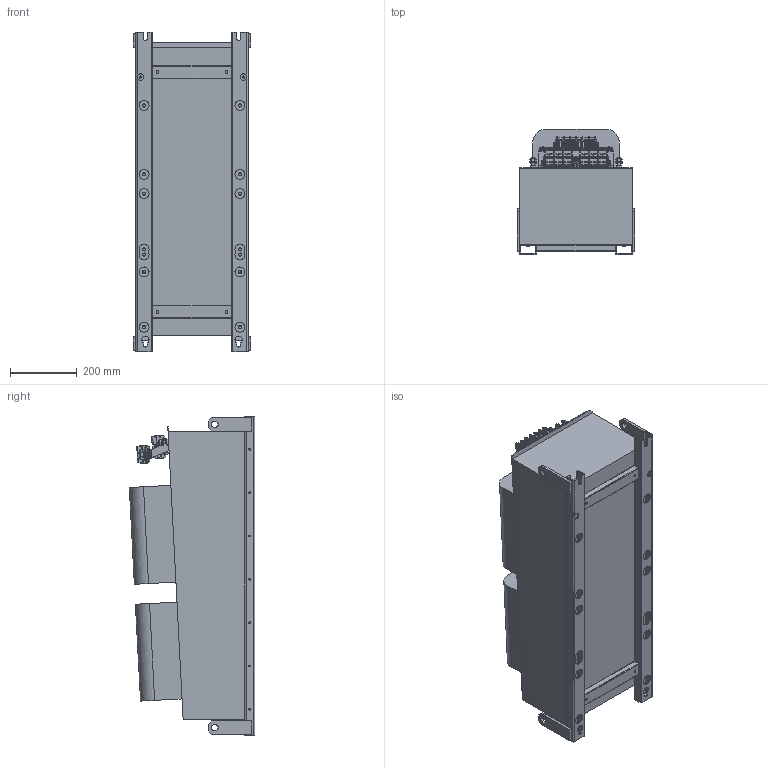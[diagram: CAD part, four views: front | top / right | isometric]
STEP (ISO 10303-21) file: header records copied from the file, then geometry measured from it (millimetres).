
FILE_DESCRIPTION((''),'2;1');
FILE_NAME('C:\SapWorkDir\Inventor\P01\G\EcosineEVO-G-E0XXJXX.stp','2016-09-30T10:07:13',('erika.jenzer'),(''),'Autodesk Inventor 2013','Autodesk Inventor 2013','');
FILE_SCHEMA(('AUTOMOTIVE_DESIGN { 1 0 10303 214 1 1 1 1 }'));
Length unit declared in the file: millimetre
Products named in the file (25): 154811_3D MODEL GLORIA FRAME G; 154814_BASE FRAME G WITH INSERTS; 154812_BASE FRAME G; 112665_INSERT BOLT FH M8X25; 112627_INSERT BOLT FH M5X15; 154816_HOUSING G WITH INSERTS; 112722_INSERT NUT M10; 154835_TERMINAL SUPPORT G WITH INSERTS; 154833_TERMINAL SUPPORT G; 112624_INSERT BOLT FH M5X12; 154822_TERMINAL MODULE G; 159668_DIN RAIL TH35-7.5 G; 154821_DIN RAIL TH35-7.5 G; 153988_DKB10; 156473_END COVER DKB10E; 153995_DKB 150; 156478_END COVER DKB150E-A; 160161_SS9B; 159346_TDJ MODULE G; 159345_DIN RAIL TH35-7.5 G-J; 153992_DKB 60; 156474_END COVER DKB60E-A; 122821_EARTH-SCREW M10X35; DIN EN 1661 M5; 163275_GLORIA G STP DUMMY
Assembly tree (60 placements, depth 4):
  154811_3D MODEL GLORIA FRAME G
    154814_BASE FRAME G WITH INSERTS
      154812_BASE FRAME G
      112665_INSERT BOLT FH M8X25  x14
      112627_INSERT BOLT FH M5X15  x2
    154816_HOUSING G WITH INSERTS
      112722_INSERT NUT M10  x2
    154835_TERMINAL SUPPORT G WITH INSERTS
      154833_TERMINAL SUPPORT G
      112624_INSERT BOLT FH M5X12  x2
    154822_TERMINAL MODULE G
      159668_DIN RAIL TH35-7.5 G
        154821_DIN RAIL TH35-7.5 G
        112624_INSERT BOLT FH M5X12  x3
      153988_DKB10  x2
      156473_END COVER DKB10E
      153995_DKB 150  x6
      156478_END COVER DKB150E-A  x2
      160161_SS9B  x2
    159346_TDJ MODULE G
      159345_DIN RAIL TH35-7.5 G-J
      153992_DKB 60  x6
      156474_END COVER DKB60E-A
      160161_SS9B  x2
    122821_EARTH-SCREW M10X35  x2
    DIN EN 1661 M5  x2
    163275_GLORIA G STP DUMMY
Bounding box: 353 x 376.51 x 960 mm (x, y, z)
Volume: 80888355.9 mm3; surface area: 2332158.2 mm2
Topology: 82 solids, 82 shells, 5247 faces, 14455 edges, 9369 vertices
Faces by surface type: plane 3668, cylinder 1174, cone 171, bspline 108, torus 54, revolution 40, sphere 32
Full cylindrical faces by diameter (mm): 1.5 x16, 2.9 x4, 3.2 x8, 3.7 x4, 4 x20, 4.134 x2, 4.2 x25, 5 x18, 5.4 x14, 5.5 x5, 6 x4, 6.206 x7, 6.5 x11, 7.193 x12, 7.2 x12, 7.3 x6, 7.9 x12, 8 x38, 8.376 x2, 9 x2, 9.188 x2, 9.275 x14, 9.8 x14, 10 x16, 10.5 x2, 14.158 x2, 15.4 x2, 16.5 x2, 17.399 x12, 20 x8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
Entity records: 53039 total; most frequent: CARTESIAN_POINT 11156, ORIENTED_EDGE 8420, DIRECTION 8377, EDGE_CURVE 4210, VECTOR 3033, LINE 3033, VERTEX_POINT 2838, AXIS2_PLACEMENT_3D 2666
